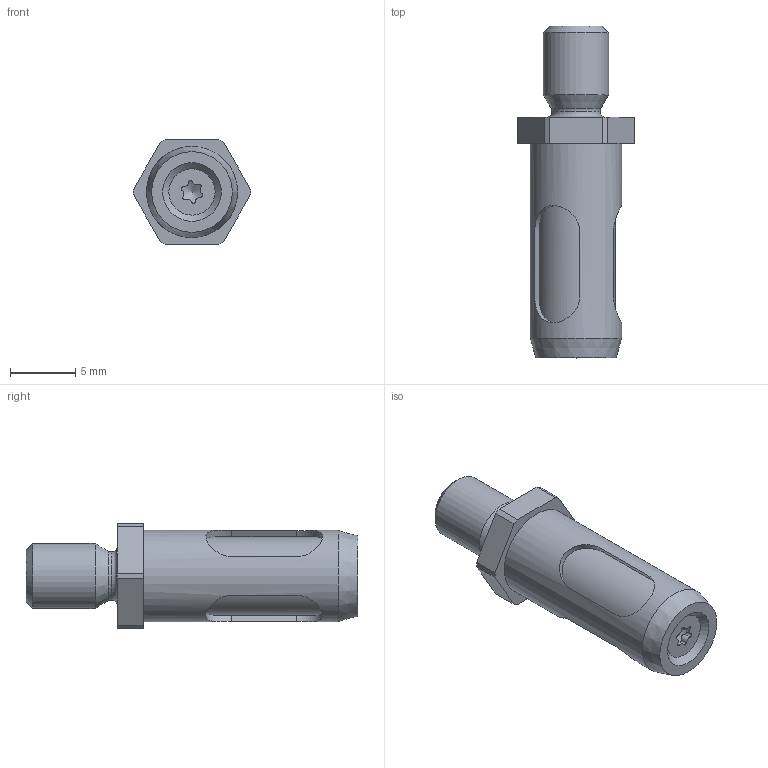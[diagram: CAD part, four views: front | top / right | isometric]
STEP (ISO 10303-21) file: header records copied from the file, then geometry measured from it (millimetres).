
FILE_DESCRIPTION(/* description */ (''),/* implementation_level */ '2;1');
FILE_NAME(/* name */ '\\dc01\daten\CAD\Standard\Daten\3D-Datenbank\GI\GIS\4 - 3D-CAD-Daten GIS 004-020\G-GIS007\G-GIS007_Rev.1.02.stp',/* time_stamp */ '2022-11-29T15:54:05+01:00',/* author */ ('ysplieth'),/* organization */ (''),/* preprocessor_version */ 'ST-DEVELOPER v17',/* originating_system */ 'Autodesk Inventor 2018',/* authorisation */ '');
FILE_SCHEMA (('AUTOMOTIVE_DESIGN { 1 0 10303 214 3 1 1 }'));
Length unit declared in the file: millimetre
Products named in the file (1): Bauteil13
Bounding box: 9 x 25.5 x 8 mm (x, y, z)
Volume: 678.5 mm3; surface area: 1335.6 mm2
Topology: 1 solids, 3 shells, 78 faces, 219 edges, 152 vertices
Faces by surface type: cylinder 40, plane 23, cone 12, torus 3
Full cylindrical faces by diameter (mm): 1.567 x2, 2.2 x1, 2.3 x2, 2.459 x1, 3.7 x1, 4.8 x1, 5 x2, 5.9 x1, 6 x1, 7 x1
Entity records: 3150 total; most frequent: CARTESIAN_POINT 980, ORIENTED_EDGE 432, DIRECTION 428, EDGE_CURVE 216, AXIS2_PLACEMENT_3D 170, VERTEX_POINT 152, EDGE_LOOP 92, CIRCLE 91
